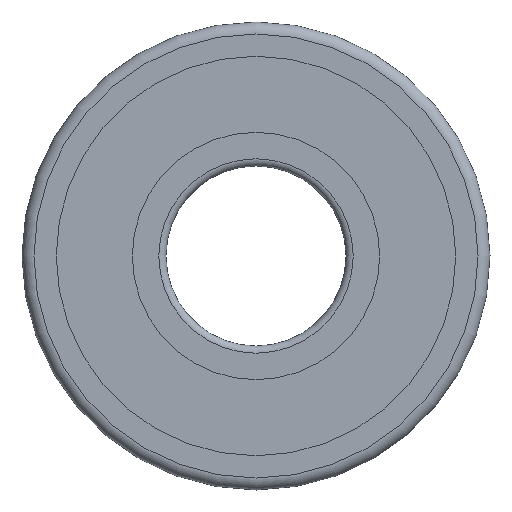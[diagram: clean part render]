
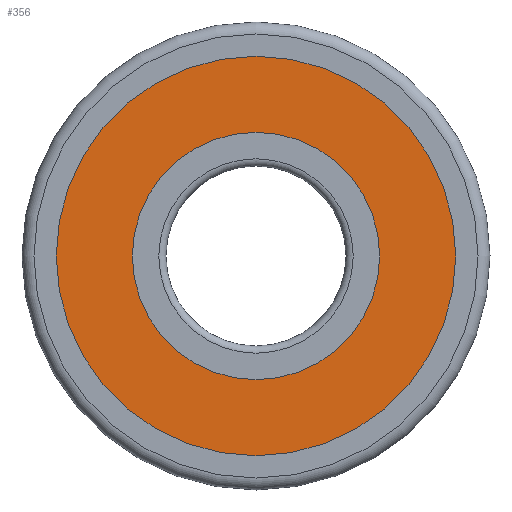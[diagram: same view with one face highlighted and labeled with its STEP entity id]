
A CAD part, left-side view. The second image highlights one B-rep face of the part: STEP entity #356.
In plain terms, the highlighted planar face has unit normal (-1, 0, 0).
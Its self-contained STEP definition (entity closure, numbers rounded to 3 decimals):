
#356=ADVANCED_FACE('',(#546,#548),#550,.T.);
#546=FACE_BOUND('',#547,.T.);
#547=EDGE_LOOP('',(#664));
#548=FACE_BOUND('',#549,.T.);
#549=EDGE_LOOP('',(#665));
#550=PLANE('',#551);
#551=AXIS2_PLACEMENT_3D('',#552,#553,#554);
#552=CARTESIAN_POINT('',(0.27,0.,0.));
#553=DIRECTION('',(-1.,-0.,0.));
#554=DIRECTION('',(0.,-1.,0.));
#664=ORIENTED_EDGE('',*,*,#755,.T.);
#665=ORIENTED_EDGE('',*,*,#753,.T.);
#753=EDGE_CURVE('',#798,#798,#799,.T.);
#755=EDGE_CURVE('',#802,#802,#803,.F.);
#798=VERTEX_POINT('',#877);
#799=CIRCLE('',#878,6.869);
#802=VERTEX_POINT('',#887);
#803=CIRCLE('',#888,11.096);
#877=CARTESIAN_POINT('',(0.27,6.869,0.));
#878=AXIS2_PLACEMENT_3D('',#879,#880,#881);
#879=CARTESIAN_POINT('',(0.27,0.,0.));
#880=DIRECTION('',(1.,0.,-0.));
#881=DIRECTION('',(-0.,1.,0.));
#887=CARTESIAN_POINT('',(0.27,11.096,0.));
#888=AXIS2_PLACEMENT_3D('',#889,#890,#891);
#889=CARTESIAN_POINT('',(0.27,0.,0.));
#890=DIRECTION('',(1.,0.,-0.));
#891=DIRECTION('',(-0.,1.,0.));
